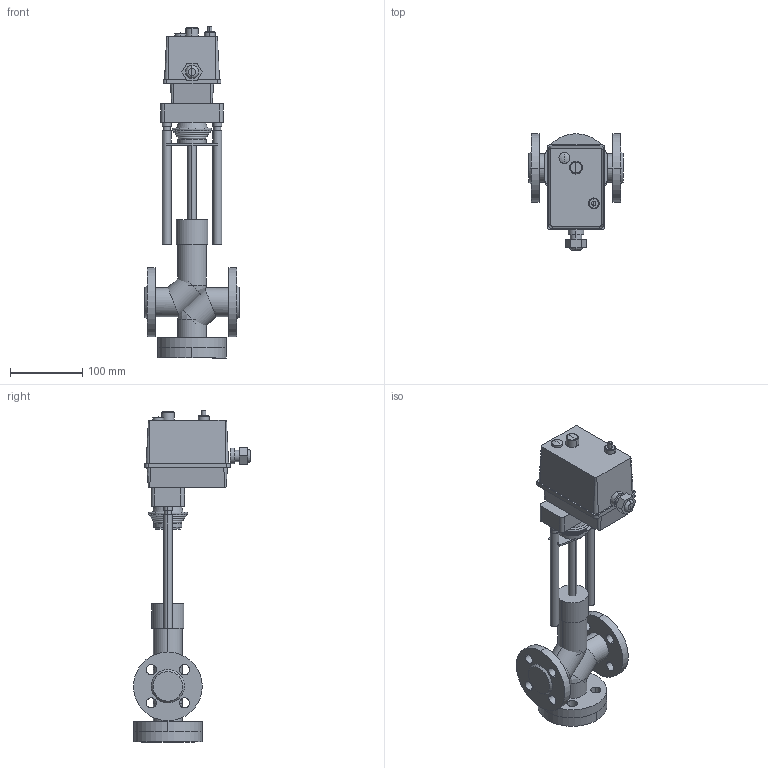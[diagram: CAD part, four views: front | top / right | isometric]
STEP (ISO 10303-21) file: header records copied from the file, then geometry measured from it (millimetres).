
FILE_DESCRIPTION(/* description */ (''),/* implementation_level */ '2;1');
FILE_NAME(/* name */ 'ТРК DN15 PN 1.6 МПа Regada ST MINI',/* time_stamp */ '2026-07-14T23:13:20+03:00',/* author */ (''),/* organization */ (''),/* preprocessor_version */ 'ST-DEVELOPER v20',/* originating_system */ '',/* authorisation */ '');
FILE_SCHEMA (('AP242_MANAGED_MODEL_BASED_3D_ENGINEERING_MIM_LF { 1 0 10303 442 1 1 4 }'));
Length unit declared in the file: millimetre
Products named in the file (14): TopLevelAssembly; Выдавливание; Модификатор; Модификатор_1; Выдавливание_
1; Выдавливание_
2; Вращение; Выдавливание_
3; Выдавливание_
4; Привод_Regada ST Mini; Переход; Объемная геометрия 
присоединена; Полый Выдавливание; Объемная геометрия 
присоединена_1
Assembly tree (13 placements, depth 2):
  TopLevelAssembly
    Выдавливание
    Модификатор
    Модификатор_1
    Выдавливание_
1
    Выдавливание_
2
    Вращение
    Выдавливание_
3
    Выдавливание_
4
    Привод_Regada ST Mini
    Переход
    Объемная геометрия 
присоединена
    Полый Выдавливание
    Объемная геометрия 
присоединена_1
Bounding box: 130 x 161.67 x 459 mm (x, y, z)
Volume: 1649548.7 mm3; surface area: 271676.5 mm2
Topology: 28 solids, 28 shells, 248 faces, 503 edges, 302 vertices
Faces by surface type: plane 122, cylinder 88, bspline 30, cone 8
Entity records: 7453 total; most frequent: CARTESIAN_POINT 1636, DIRECTION 1239, ORIENTED_EDGE 986, AXIS2_PLACEMENT_3D 501, EDGE_CURVE 493, VERTEX_POINT 302, EDGE_LOOP 278, FACE_OUTER_BOUND 248
